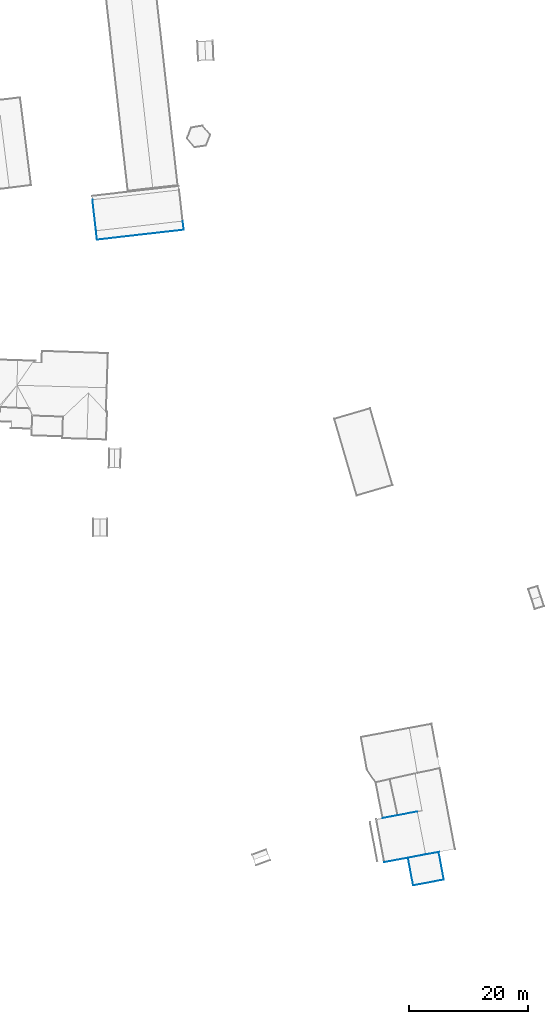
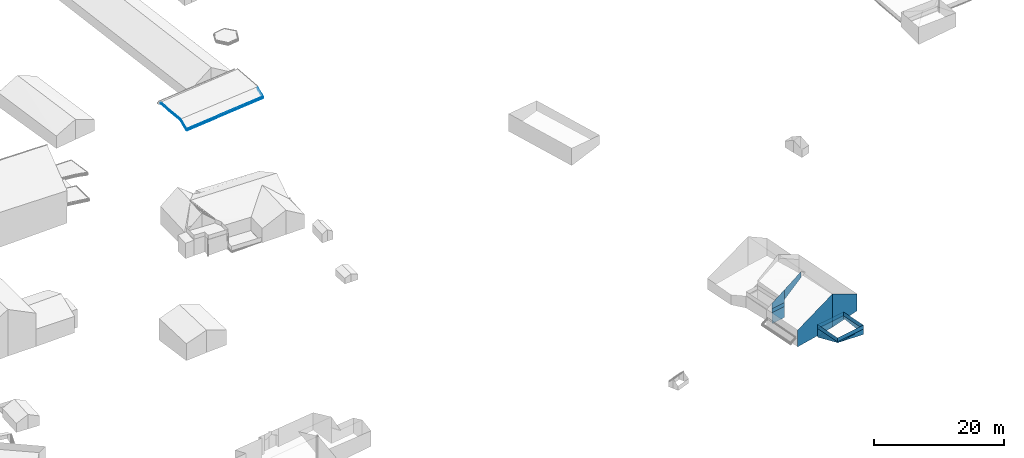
# Not in any storey, part 15 of 59: 27 walls.
"""IFC4 building model written with IfcOpenShell, lengths in metres."""

from ifc_helpers import new_model, entity, si_unit, converted_unit, frame, origin, place, context, subcontext, project, spatial, face_set, surface_model, element, save


model = new_model("IFC4")

# Units and contexts
model_context = context("Model", 3, precision=1e-05, world=origin())
body_context = subcontext(model_context, "Body", "Model", "MODEL_VIEW")
ifc_project = project(units=[converted_unit("PLANEANGLEUNIT", "DEGREE", entity("IfcRatioMeasure", 0.0174532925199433), si_unit("PLANEANGLEUNIT", "RADIAN"), dimensions=[0, 0, 0, 0, 0, 0, 0]), si_unit("AREAUNIT", "SQUARE_METRE"), si_unit("LENGTHUNIT", "METRE")], contexts=[model_context])

# Site, building
site_placement = place(None, origin())
site = spatial("IfcSite", under=ifc_project, at=site_placement, Name="_site")
building_1_placement = place(site_placement, origin())
building_1 = spatial("IfcBuilding", under=site, at=building_1_placement, Name="_building")

# Walls
wall_1_placement = place(building_1_placement, origin())
element("IfcWall", 1, at=wall_1_placement, inside=building_1, Name="Wall", PredefinedType="NOTDEFINED", context=body_context, shape_type="SurfaceModel", body=[
    surface_model("IfcFaceBasedSurfaceModel", [(176.75, 35.941, 224.161), (180.04, 36.561, 226.04), (180.04, 36.561, 224.893), (176.75, 35.941, 222.28)], [face_set([[[0, 1, 2, 3]]])]),
])
wall_2_placement = place(building_1_placement, origin())
element("IfcWall", 2, at=wall_2_placement, inside=building_1, Name="Wall", PredefinedType="NOTDEFINED", context=body_context, shape_type="SurfaceModel", body=[
    surface_model("IfcFaceBasedSurfaceModel", [(186.37, 30.289, 223.39), (181.44, 29.369, 225.69), (181.44, 29.369, 219.391), (186.37, 30.289, 220.25)], [face_set([[[0, 1, 2, 3]]])]),
])
wall_3_placement = place(building_1_placement, origin())
element("IfcWall", 3, at=wall_3_placement, inside=building_1, Name="Wall", PredefinedType="NOTDEFINED", context=body_context, shape_type="SurfaceModel", body=[
    surface_model("IfcFaceBasedSurfaceModel", [(174.26, 35.48, 222.74), (176.75, 35.941, 224.161), (176.75, 35.941, 220.76), (174.26, 35.48, 220.78)], [face_set([[[0, 1, 2, 3]]])]),
])
wall_4_placement = place(building_1_placement, origin())
element("IfcWall", 4, at=wall_4_placement, inside=building_1, Name="Wall", PredefinedType="NOTDEFINED", context=body_context, shape_type="SurfaceModel", body=[
    surface_model("IfcFaceBasedSurfaceModel", [(181.44, 29.369, 225.69), (174.52, 28.07, 222.11), (174.52, 28.07, 218.951), (181.44, 29.369, 219.391)], [face_set([[[0, 1, 2, 3]]])]),
])
for number, where, name in (
    (5, (0.0, 0.0, 0.0), "Wall"),
    (6, (0.0, 0.0, 0.0), "Wall"),
):
    element("IfcWall", number, at=place(building_1_placement, frame(where)), inside=building_1, Name=name, PredefinedType="NOTDEFINED", context=body_context, shape_type="SurfaceModel", body=[
        surface_model("IfcFaceBasedSurfaceModel", [(176.75, 35.939, 220.96), (174.26, 35.48, 220.96), (174.26, 35.48, 221.71), (176.75, 35.939, 221.71)], [face_set([[[0, 1, 2, 3]]])]),
    ])
wall_5_placement = place(building_1_placement, origin())
element("IfcWall", 7, at=wall_5_placement, inside=building_1, Name="Wall", PredefinedType="NOTDEFINED", context=body_context, shape_type="SurfaceModel", body=[
    surface_model("IfcFaceBasedSurfaceModel", [(179.36, 24.18, 220.545), (178.49, 28.82, 220.545), (178.49, 28.82, 221.295), (179.36, 24.18, 221.295)], [face_set([[[0, 1, 2, 3]]])]),
])
wall_6_placement = place(building_1_placement, origin())
element("IfcWall", 8, at=wall_6_placement, inside=building_1, Name="Wall", PredefinedType="NOTDEFINED", context=body_context, shape_type="SurfaceModel", body=[
    surface_model("IfcFaceBasedSurfaceModel", [(184.5, 25.15, 220.545), (179.36, 24.18, 220.545), (179.36, 24.18, 221.295), (184.5, 25.15, 221.295)], [face_set([[[0, 1, 2, 3]]])]),
])
wall_7_placement = place(building_1_placement, origin())
element("IfcWall", 9, at=wall_7_placement, inside=building_1, Name="Wall", PredefinedType="NOTDEFINED", context=body_context, shape_type="SurfaceModel", body=[
    surface_model("IfcFaceBasedSurfaceModel", [(183.63, 29.779, 220.545), (184.5, 25.15, 220.545), (184.5, 25.15, 221.295), (183.63, 29.779, 221.295)], [face_set([[[0, 1, 2, 3]]])]),
])
wall_8_placement = place(building_1_placement, origin())
element("IfcWall", 10, at=wall_8_placement, inside=building_1, Name="Wall", PredefinedType="NOTDEFINED", context=body_context, shape_type="SurfaceModel", body=[
    surface_model("IfcFaceBasedSurfaceModel", [(178.49, 28.82, 220.545), (183.63, 29.779, 220.545), (183.63, 29.779, 221.295), (178.49, 28.82, 221.295)], [face_set([[[0, 1, 2, 3]]])]),
])
wall_9_placement = place(building_1_placement, origin())
element("IfcWall", 11, at=wall_9_placement, inside=building_1, Name="Wall", PredefinedType="NOTDEFINED", context=body_context, shape_type="SurfaceModel", body=[
    surface_model("IfcFaceBasedSurfaceModel", [(179.36, 24.18, 220.545), (178.49, 28.82, 220.545), (178.49, 28.82, 221.295), (179.36, 24.18, 221.295)], [face_set([[[0, 1, 2, 3]]])]),
])
wall_10_placement = place(building_1_placement, origin())
element("IfcWall", 12, at=wall_10_placement, inside=building_1, Name="Wall", PredefinedType="NOTDEFINED", context=body_context, shape_type="SurfaceModel", body=[
    surface_model("IfcFaceBasedSurfaceModel", [(184.5, 25.15, 220.545), (179.36, 24.18, 220.545), (179.36, 24.18, 221.295), (184.5, 25.15, 221.295)], [face_set([[[0, 1, 2, 3]]])]),
])
wall_11_placement = place(building_1_placement, origin())
element("IfcWall", 13, at=wall_11_placement, inside=building_1, Name="Wall", PredefinedType="NOTDEFINED", context=body_context, shape_type="SurfaceModel", body=[
    surface_model("IfcFaceBasedSurfaceModel", [(183.63, 29.779, 220.545), (184.5, 25.15, 220.545), (184.5, 25.15, 221.295), (183.63, 29.779, 221.295)], [face_set([[[0, 1, 2, 3]]])]),
])
wall_12_placement = place(building_1_placement, origin())
element("IfcWall", 14, at=wall_12_placement, inside=building_1, Name="Wall", PredefinedType="NOTDEFINED", context=body_context, shape_type="SurfaceModel", body=[
    surface_model("IfcFaceBasedSurfaceModel", [(178.49, 28.82, 220.545), (183.63, 29.779, 220.545), (183.63, 29.779, 221.295), (178.49, 28.82, 221.295)], [face_set([[[0, 1, 2, 3]]])]),
])
wall_13_placement = place(building_1_placement, origin())
element("IfcWall", 15, at=wall_13_placement, inside=building_1, Name="Wall", PredefinedType="NOTDEFINED", context=body_context, shape_type="SurfaceModel", body=[
    surface_model("IfcFaceBasedSurfaceModel", [(184.5, 25.15, 220.545), (179.36, 24.18, 220.545), (179.36, 24.18, 220.379), (184.5, 25.15, 219.545)], [face_set([[[0, 1, 2, 3]]])]),
])
wall_14_placement = place(building_1_placement, origin())
element("IfcWall", 16, at=wall_14_placement, inside=building_1, Name="Wall", PredefinedType="NOTDEFINED", context=body_context, shape_type="SurfaceModel", body=[
    surface_model("IfcFaceBasedSurfaceModel", [(183.63, 29.779, 220.545), (184.5, 25.15, 220.545), (184.5, 25.15, 219.545), (183.63, 29.779, 220.091)], [face_set([[[0, 1, 2, 3]]])]),
])
wall_15_placement = place(building_1_placement, origin())
element("IfcWall", 17, at=wall_15_placement, inside=building_1, Name="Wall", PredefinedType="NOTDEFINED", context=body_context, shape_type="SurfaceModel", body=[
    surface_model("IfcFaceBasedSurfaceModel", [(176.75, 35.939, 220.96), (174.26, 35.48, 220.96), (174.26, 35.48, 218.877), (176.75, 35.939, 218.949)], [face_set([[[0, 1, 2, 3]]])]),
])
wall_16_placement = place(building_1_placement, origin())
element("IfcWall", 18, at=wall_16_placement, inside=building_1, Name="Wall", PredefinedType="NOTDEFINED", context=body_context, shape_type="SurfaceModel", body=[
    surface_model("IfcFaceBasedSurfaceModel", [(179.36, 24.18, 220.545), (178.49, 28.82, 220.545), (178.49, 28.82, 218.913), (179.36, 24.18, 220.379)], [face_set([[[0, 1, 2, 3]]])]),
])
wall_17_placement = place(building_1_placement, origin())
element("IfcWall", 19, at=wall_17_placement, inside=building_1, Name="Wall", PredefinedType="NOTDEFINED", context=body_context, shape_type="SurfaceModel", body=[
    surface_model("IfcFaceBasedSurfaceModel", [(178.49, 28.82, 220.545), (183.63, 29.779, 220.545), (183.63, 29.779, 220.091), (178.49, 28.82, 218.913)], [face_set([[[0, 1, 2, 3]]])]),
])

# Building
building_2_placement = place(site_placement, origin())
building_2 = spatial("IfcBuilding", under=site, at=building_2_placement, Name="_building")

# Walls
for number, where, name in (
    (20, (0.0, 0.0, 0.0), "Wall"),
    (21, (0.0, 0.0, 0.0), "Wall"),
):
    element("IfcWall", number, at=place(building_2_placement, frame(where)), inside=building_2, Name=name, PredefinedType="NOTDEFINED", context=body_context, shape_type="SurfaceModel", body=[
        surface_model("IfcFaceBasedSurfaceModel", [(126.16, 133.971, 214.43), (125.57, 139.18, 214.62), (125.57, 139.18, 214.27), (126.16, 133.971, 214.08)], [face_set([[[0, 1, 2, 3]]])]),
    ])
for number, where, name in (
    (22, (0.0, 0.0, 0.0), "Wall"),
    (23, (0.0, 0.0, 0.0), "Wall"),
):
    element("IfcWall", number, at=place(building_2_placement, frame(where)), inside=building_2, Name=name, PredefinedType="NOTDEFINED", context=body_context, shape_type="SurfaceModel", body=[
        surface_model("IfcFaceBasedSurfaceModel", [(126.33, 132.471, 213.42), (126.16, 133.971, 214.43), (126.16, 133.971, 214.08), (126.33, 132.471, 213.07)], [face_set([[[0, 1, 2, 3]]])]),
    ])
for number, where, name in (
    (24, (0.0, 0.0, 0.0), "Wall"),
    (25, (0.0, 0.0, 0.0), "Wall"),
):
    element("IfcWall", number, at=place(building_2_placement, frame(where)), inside=building_2, Name=name, PredefinedType="NOTDEFINED", context=body_context, shape_type="SurfaceModel", body=[
        surface_model("IfcFaceBasedSurfaceModel", [(140.71, 135.6, 214.39), (140.88, 134.131, 213.43), (140.88, 134.131, 213.08), (140.71, 135.6, 214.04)], [face_set([[[0, 1, 2, 3]]])]),
    ])
for number, where, name in (
    (26, (0.0, 0.0, 0.0), "Wall"),
    (27, (0.0, 0.0, 0.0), "Wall"),
):
    element("IfcWall", number, at=place(building_2_placement, frame(where)), inside=building_2, Name=name, PredefinedType="NOTDEFINED", context=body_context, shape_type="SurfaceModel", body=[
        surface_model("IfcFaceBasedSurfaceModel", [(140.88, 134.131, 213.43), (126.33, 132.471, 213.42), (126.33, 132.471, 213.07), (140.88, 134.131, 213.08)], [face_set([[[0, 1, 2, 3]]])]),
    ])

save(model, "model.ifc")
